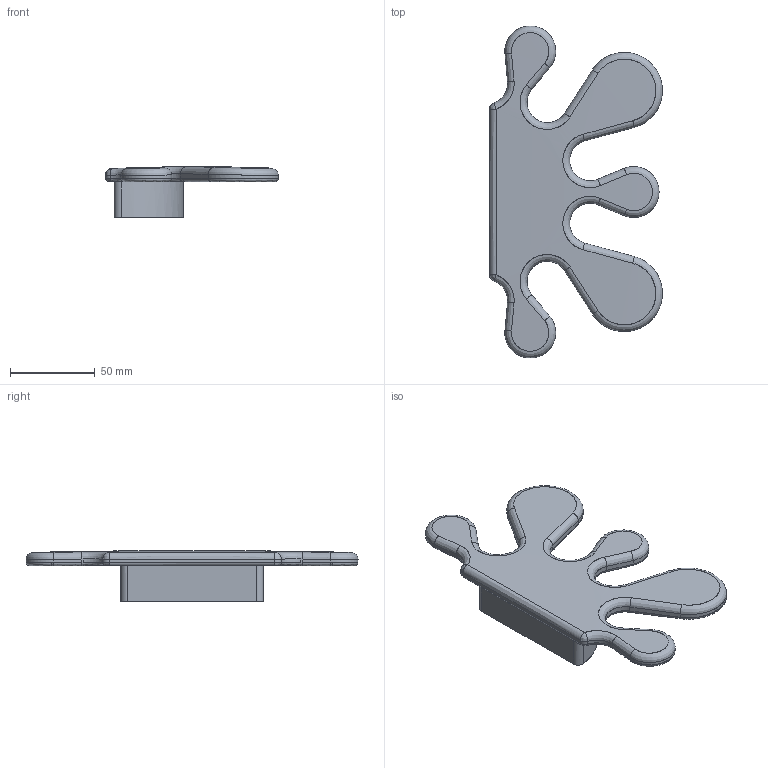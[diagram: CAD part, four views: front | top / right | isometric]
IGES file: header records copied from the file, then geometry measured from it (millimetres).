
Start section: C
Global section: file name: 8201.igs; native system: By Siemens PLM Incorporated; preprocessor: XPlus GENERIC/IGES 16.0.42; author: Author; organization: Title; date: 20231116.112106; units: millimetre
Bounding box: 102 x 196 x 30 mm (x, y, z)
Surface area: 48693.4 mm2 (no closed solid volume)
Topology: 0 solids, 0 shells, 355 faces, 1698 edges, 1688 vertices
Faces by surface type: bspline 355
